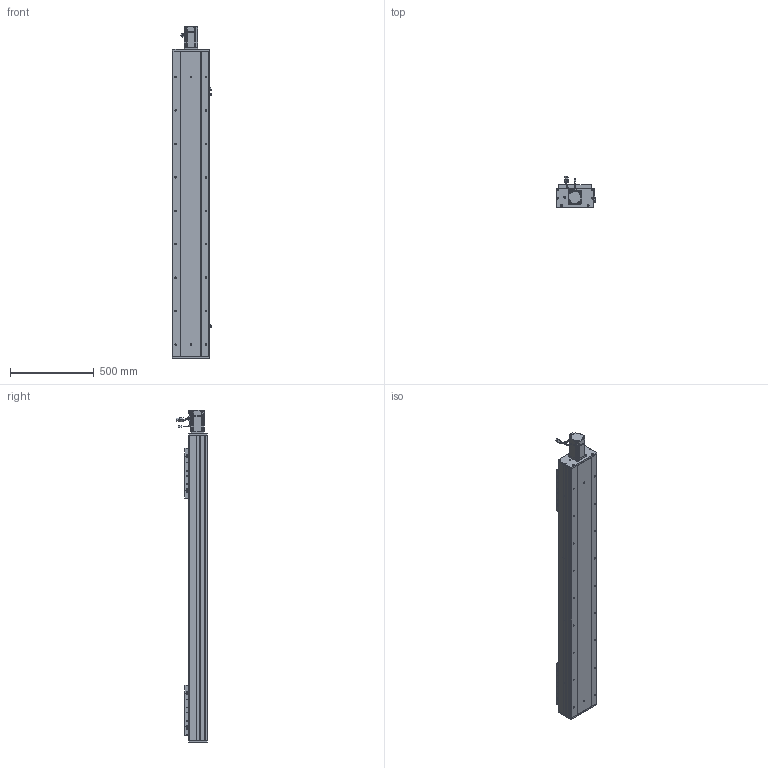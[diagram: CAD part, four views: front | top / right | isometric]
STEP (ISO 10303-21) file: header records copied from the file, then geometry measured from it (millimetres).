
FILE_DESCRIPTION (( 'STEP AP203' ), '1' );
FILE_NAME ('RY220F-L2525-300-MK.SLDASM_1400.step', '2022-07-04T01:04:07', ( '' ), ( '' ), 'SwSTEP 2.0', 'SolidWorks 2016', '' );
FILE_SCHEMA (( 'CONFIG_CONTROL_DESIGN' ));
Length unit declared in the file: millimetre
Products named in the file (15): 怢湛750W_ECMA-CX0807ES; RY220Fヶ裔啣; RY220F-奻裔啣-300_1400; 覜茼ん672; RY220F-滅鳥奻裔; RY220F-672覜茼んえ; RY220电机支撑座FK20（PCD90M6）; RY220F菁釱MK-300_1400; 滅袉蝶18-20; RY220F綴裔啣; RY220F臏賑釱25-32佪裝; 滅袉蝶18-24; RY220F-祥凄詩湍-MK-300_1400; RY220F-L2525-300-MK.SLDASM_1400; RY220F-詩湍揤踡輸
Assembly tree (23 placements, depth 2):
  RY220F-L2525-300-MK.SLDASM_1400
    RY220F菁釱MK-300_1400
    RY220电机支撑座FK20（PCD90M6）
    RY220F-奻裔啣-300_1400  x2
    怢湛750W_ECMA-CX0807ES
    RY220F臏賑釱25-32佪裝  x2
    RY220F-滅鳥奻裔  x2
    滅袉蝶18-20
    滅袉蝶18-24  x3
    RY220Fヶ裔啣
    RY220F綴裔啣
    RY220F-祥凄詩湍-MK-300_1400
    RY220F-詩湍揤踡輸  x2
    覜茼ん672  x3
    RY220F-672覜茼んえ  x2
Bounding box: 233.7 x 187.27 x 1984.3 mm (x, y, z)
Volume: 17487898.8 mm3; surface area: 4419281.2 mm2
Topology: 24 solids, 24 shells, 2814 faces, 7698 edges, 4752 vertices
Faces by surface type: cylinder 1278, plane 1030, cone 443, bspline 37, sphere 16, torus 10
Entity records: 70374 total; most frequent: CARTESIAN_POINT 18716, ORIENTED_EDGE 10442, DIRECTION 10226, EDGE_CURVE 5221, AXIS2_PLACEMENT_3D 3655, VERTEX_POINT 3392, VECTOR 2916, LINE 2916
